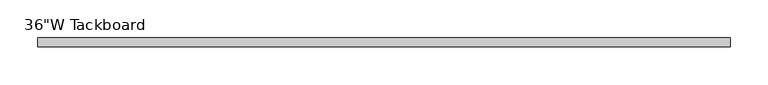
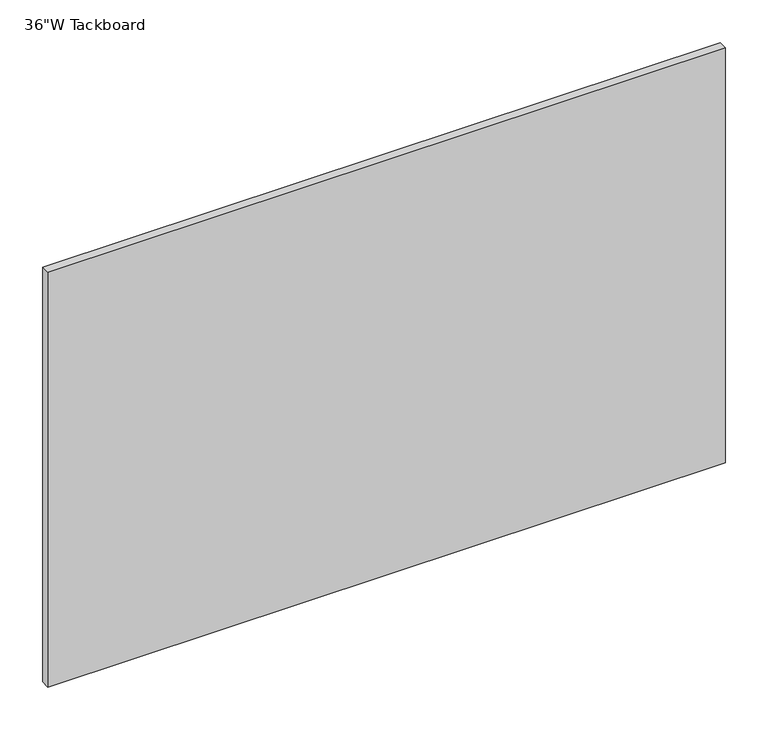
"""IFC4 building model written with IfcOpenShell, lengths in millimetres: furniture geometry."""

from ifc_helpers import new_model, si_unit, frame, origin, place, context, project, spatial, polyline, outline, extrude, source, transform, mapped, element, save


def furniture_4dc094ea(model_context):
    return source(origin(), model_context, "Body", "SweptSolid", [
        extrude(outline(polyline([(622.3, 0.0), (622.3, -11.90625), (-292.1, -11.90625), (-292.1, 0.0), (622.3, 0.0)])), frame((0.0, 0.0, 762.0), z_axis=(0.0, 0.0, 1.0), x_axis=(1.0, 0.0, 0.0)), (0.0, 0.0, 1.0), 592.1375),
    ])


if __name__ == "__main__":
    model = new_model("IFC4")
    model_context = context("Model", 3, world=origin())
    ifc_project = project(units=[si_unit("LENGTHUNIT", "METRE", prefix="MILLI")], contexts=[model_context])
    site = spatial("IfcSite", under=ifc_project)
    building = spatial("IfcBuilding", under=site)
    placement = place(None, origin())
    furniture_shape = furniture_4dc094ea(model_context)
    element("IfcFurniture", 1, ObjectType="Haworth_Masters_Tackboard : 36\"W Tackboard", at=placement, inside=building, context=model_context, shape_type="MappedRepresentation", body=[
        mapped(furniture_shape, transform((0.0, 0.0, 0.0), x_axis=(1.0, 0.0, 0.0), y_axis=(0.0, 1.0, 0.0), z_axis=(0.0, 0.0, 1.0))),
    ])
    save(model, "model.ifc")
